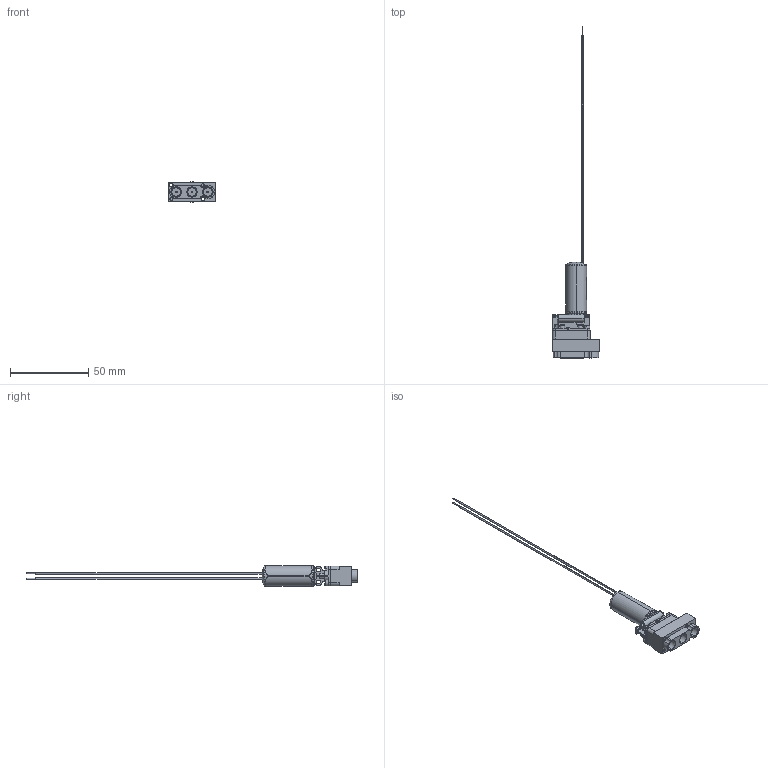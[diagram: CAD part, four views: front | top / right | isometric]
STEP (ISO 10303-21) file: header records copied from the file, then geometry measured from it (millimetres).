
FILE_DESCRIPTION (( 'STEP AP214' ), '1' );
FILE_NAME ('Lee-LFR_Series_.25-28_Lead_Wires-CAD_Model_A1 A1.step', '2021-03-24T18:17:51', ( '' ), ( '' ), 'SwSTEP 2.0', 'SolidWorks 2021', '' );
FILE_SCHEMA (( 'AUTOMOTIVE_DESIGN' ));
Length unit declared in the file: inch
Products named in the file (1): Lee-LFR_Series_.25-28_Lead_Wires-CAD_Model_A1 A1
Bounding box: 30.48 x 212.47 x 13.39 mm (x, y, z)
Volume: 11462.1 mm3; surface area: 6583.5 mm2
Topology: 1 solids, 1 shells, 347 faces, 1232 edges, 968 vertices
Faces by surface type: cylinder 189, plane 136, cone 12, torus 10
Entity records: 22078 total; most frequent: CARTESIAN_POINT 6850, ORIENTED_EDGE 2460, DIRECTION 1964, EDGE_CURVE 1230, VERTEX_POINT 968, AXIS2_PLACEMENT_3D 713, VECTOR 538, LINE 538
